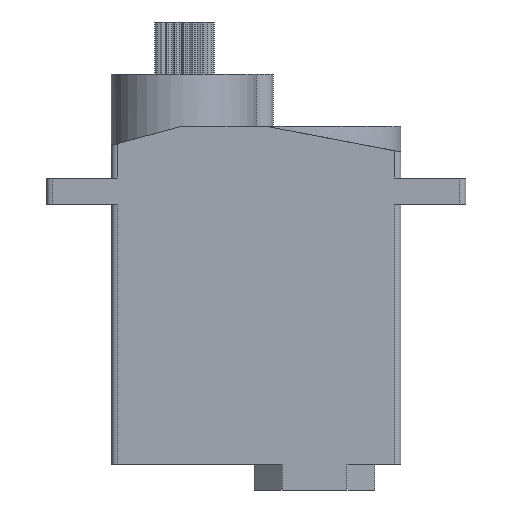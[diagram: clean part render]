
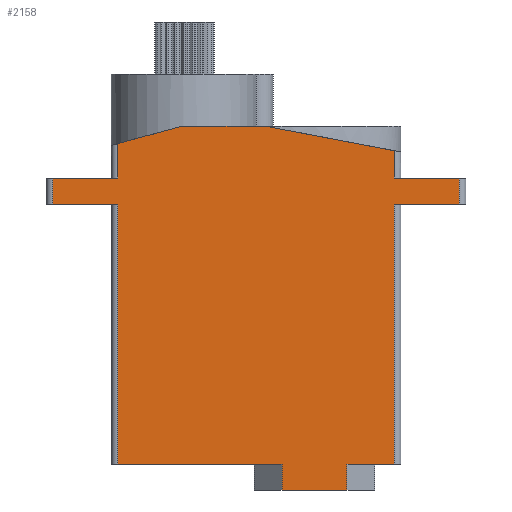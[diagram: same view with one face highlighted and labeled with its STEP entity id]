
A CAD part, left-side view. The second image highlights one B-rep face of the part: STEP entity #2158.
In plain terms, the highlighted planar face has unit normal (-1, 0, 0).
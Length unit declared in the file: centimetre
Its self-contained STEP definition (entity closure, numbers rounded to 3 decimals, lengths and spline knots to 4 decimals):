
#423=VERTEX_POINT('',#9185);
#426=VERTEX_POINT('',#9190);
#427=VERTEX_POINT('',#9194);
#428=VERTEX_POINT('',#9196);
#429=VERTEX_POINT('',#9198);
#430=VERTEX_POINT('',#9200);
#431=VERTEX_POINT('',#9202);
#432=VERTEX_POINT('',#9204);
#433=VERTEX_POINT('',#9206);
#434=VERTEX_POINT('',#9208);
#435=VERTEX_POINT('',#9209);
#436=VERTEX_POINT('',#9211);
#437=VERTEX_POINT('',#9213);
#438=VERTEX_POINT('',#9215);
#439=VERTEX_POINT('',#9216);
#440=VERTEX_POINT('',#9218);
#441=VERTEX_POINT('',#9220);
#442=VERTEX_POINT('',#9222);
#443=VERTEX_POINT('',#9223);
#690=EDGE_CURVE('',#426,#423,#4278,.T.);
#691=EDGE_CURVE('',#426,#427,#4279,.T.);
#692=EDGE_CURVE('',#428,#427,#4280,.T.);
#693=EDGE_CURVE('',#429,#428,#4281,.T.);
#694=EDGE_CURVE('',#430,#429,#4282,.T.);
#695=EDGE_CURVE('',#430,#431,#4283,.T.);
#696=EDGE_CURVE('',#432,#431,#4284,.T.);
#697=EDGE_CURVE('',#433,#432,#4285,.T.);
#698=EDGE_CURVE('',#433,#434,#4286,.T.);
#699=EDGE_CURVE('',#434,#435,#4283,.T.);
#700=EDGE_CURVE('',#436,#435,#4287,.T.);
#701=EDGE_CURVE('',#437,#436,#4288,.T.);
#702=EDGE_CURVE('',#438,#437,#4289,.T.);
#703=EDGE_CURVE('',#438,#439,#4279,.T.);
#704=EDGE_CURVE('',#440,#439,#4290,.T.);
#705=EDGE_CURVE('',#440,#441,#4291,.T.);
#706=EDGE_CURVE('',#441,#442,#4292,.T.);
#707=EDGE_CURVE('',#442,#443,#4292,.T.);
#708=EDGE_CURVE('',#443,#423,#4293,.T.);
#1089=ORIENTED_EDGE('',*,*,#690,.F.);
#1090=ORIENTED_EDGE('',*,*,#691,.T.);
#1091=ORIENTED_EDGE('',*,*,#692,.F.);
#1092=ORIENTED_EDGE('',*,*,#693,.F.);
#1093=ORIENTED_EDGE('',*,*,#694,.F.);
#1094=ORIENTED_EDGE('',*,*,#695,.T.);
#1095=ORIENTED_EDGE('',*,*,#696,.F.);
#1096=ORIENTED_EDGE('',*,*,#697,.F.);
#1097=ORIENTED_EDGE('',*,*,#698,.T.);
#1098=ORIENTED_EDGE('',*,*,#699,.T.);
#1099=ORIENTED_EDGE('',*,*,#700,.F.);
#1100=ORIENTED_EDGE('',*,*,#701,.F.);
#1101=ORIENTED_EDGE('',*,*,#702,.F.);
#1102=ORIENTED_EDGE('',*,*,#703,.T.);
#1103=ORIENTED_EDGE('',*,*,#704,.F.);
#1104=ORIENTED_EDGE('',*,*,#705,.T.);
#1105=ORIENTED_EDGE('',*,*,#706,.T.);
#1106=ORIENTED_EDGE('',*,*,#707,.T.);
#1107=ORIENTED_EDGE('',*,*,#708,.T.);
#1882=EDGE_LOOP('',(#1089,#1090,#1091,#1092,#1093,#1094,#1095,#1096,#1097,
#1098,#1099,#1100,#1101,#1102,#1103,#1104,#1105,#1106,#1107));
#2020=FACE_BOUND('',#1882,.T.);
#2158=ADVANCED_FACE('',(#2020),#7020,.T.);
#4278=LINE('',#9191,#6747);
#4279=LINE('',#9193,#6748);
#4280=LINE('',#9195,#6749);
#4281=LINE('',#9197,#6750);
#4282=LINE('',#9199,#6751);
#4283=LINE('',#9201,#6752);
#4284=LINE('',#9203,#6753);
#4285=LINE('',#9205,#6754);
#4286=LINE('',#9207,#6755);
#4287=LINE('',#9210,#6756);
#4288=LINE('',#9212,#6757);
#4289=LINE('',#9214,#6758);
#4290=LINE('',#9217,#6759);
#4291=LINE('',#9219,#6760);
#4292=LINE('',#9221,#6761);
#4293=LINE('',#9224,#6762);
#6201=AXIS2_PLACEMENT_3D('',#9192,#7527,$);
#6747=VECTOR('',#7526,1.);
#6748=VECTOR('',#7528,1.);
#6749=VECTOR('',#7529,1.);
#6750=VECTOR('',#7530,1.);
#6751=VECTOR('',#7531,1.);
#6752=VECTOR('',#7532,1.);
#6753=VECTOR('',#7533,1.);
#6754=VECTOR('',#7534,1.);
#6755=VECTOR('',#7535,1.);
#6756=VECTOR('',#7536,1.);
#6757=VECTOR('',#7537,1.);
#6758=VECTOR('',#7538,1.);
#6759=VECTOR('',#7539,1.);
#6760=VECTOR('',#7540,1.);
#6761=VECTOR('',#7541,1.);
#6762=VECTOR('',#7542,1.);
#7020=PLANE('',#6201);
#7526=DIRECTION('',(0.,0.,1.));
#7527=DIRECTION('',(-1.,0.,0.));
#7528=DIRECTION('',(0.,1.,0.));
#7529=DIRECTION('',(0.,0.,1.));
#7530=DIRECTION('',(0.,1.,0.));
#7531=DIRECTION('',(0.,0.,1.));
#7532=DIRECTION('',(0.,-1.,0.));
#7533=DIRECTION('',(0.,0.,1.));
#7534=DIRECTION('',(0.,1.,0.));
#7535=DIRECTION('',(0.,0.,1.));
#7536=DIRECTION('',(0.,0.,-1.));
#7537=DIRECTION('',(0.,1.,0.));
#7538=DIRECTION('',(0.,0.,-1.));
#7539=DIRECTION('',(0.,0.,-1.));
#7540=DIRECTION('',(0.,0.982,0.187));
#7541=DIRECTION('',(0.,1.,0.));
#7542=DIRECTION('',(0.,0.965,-0.263));
#9185=CARTESIAN_POINT('',(-1.13,1.98,2.6636));
#9190=CARTESIAN_POINT('',(-1.13,1.98,2.4));
#9191=CARTESIAN_POINT('',(-1.13,1.98,1.2));
#9192=CARTESIAN_POINT('',(-1.13,0.465,0.));
#9193=CARTESIAN_POINT('',(-1.13,2.53,2.4));
#9194=CARTESIAN_POINT('',(-1.13,2.48,2.4));
#9195=CARTESIAN_POINT('',(-1.13,2.48,1.1));
#9196=CARTESIAN_POINT('',(-1.13,2.48,2.2));
#9197=CARTESIAN_POINT('',(-1.13,0.69,2.2));
#9198=CARTESIAN_POINT('',(-1.13,1.98,2.2));
#9199=CARTESIAN_POINT('',(-1.13,1.98,0.1));
#9200=CARTESIAN_POINT('',(-1.13,1.98,0.2));
#9201=CARTESIAN_POINT('',(-1.13,2.03,0.2));
#9202=CARTESIAN_POINT('',(-1.13,0.715,0.2));
#9203=CARTESIAN_POINT('',(-1.13,0.715,0.));
#9204=CARTESIAN_POINT('',(-1.13,0.715,0.));
#9205=CARTESIAN_POINT('',(-1.13,0.215,0.));
#9206=CARTESIAN_POINT('',(-1.13,0.215,0.));
#9207=CARTESIAN_POINT('',(-1.13,0.215,0.));
#9208=CARTESIAN_POINT('',(-1.13,0.215,0.2));
#9209=CARTESIAN_POINT('',(-1.13,-0.15,0.2));
#9210=CARTESIAN_POINT('',(-1.13,-0.15,0.1));
#9211=CARTESIAN_POINT('',(-1.13,-0.15,2.2));
#9212=CARTESIAN_POINT('',(-1.13,0.69,2.2));
#9213=CARTESIAN_POINT('',(-1.13,-0.65,2.2));
#9214=CARTESIAN_POINT('',(-1.13,-0.65,1.1));
#9215=CARTESIAN_POINT('',(-1.13,-0.65,2.4));
#9216=CARTESIAN_POINT('',(-1.13,-0.15,2.4));
#9217=CARTESIAN_POINT('',(-1.13,-0.15,1.2));
#9218=CARTESIAN_POINT('',(-1.13,-0.15,2.6095));
#9219=CARTESIAN_POINT('',(-1.13,0.1444,2.6656));
#9220=CARTESIAN_POINT('',(-1.13,0.85,2.8));
#9221=CARTESIAN_POINT('',(-1.13,2.03,2.8));
#9222=CARTESIAN_POINT('',(-1.13,1.465,2.8));
#9223=CARTESIAN_POINT('',(-1.13,1.48,2.8));
#9224=CARTESIAN_POINT('',(-1.13,1.5005,2.7944));
